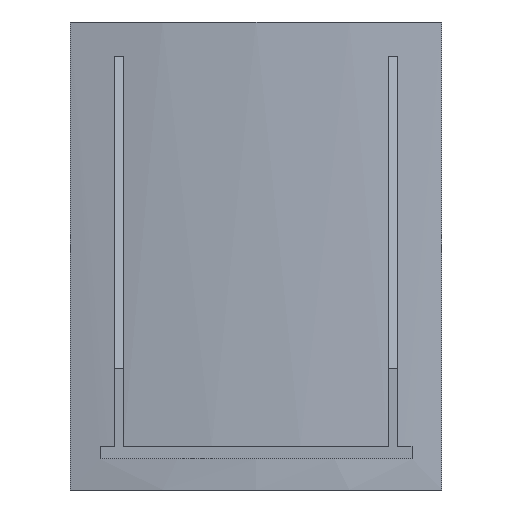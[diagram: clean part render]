
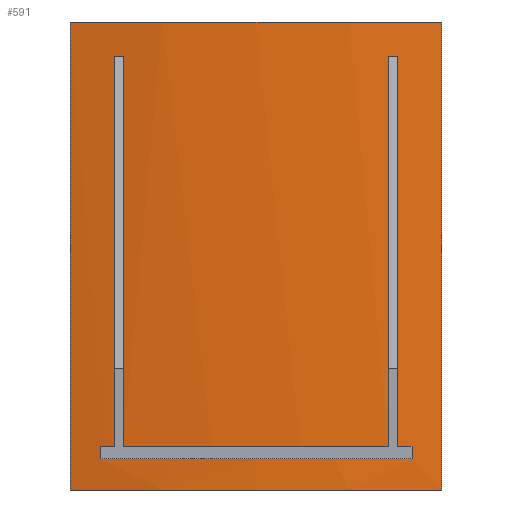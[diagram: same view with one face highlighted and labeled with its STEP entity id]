
A CAD part, left-side view. The second image highlights one B-rep face of the part: STEP entity #591.
In plain terms, the highlighted cylindrical face has radius 1218 mm (diameter 2436 mm), a partial arc.
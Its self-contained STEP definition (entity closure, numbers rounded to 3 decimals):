
#19=FACE_BOUND('',#105,.T.);
#28=CIRCLE('',#642,1218.);
#29=CIRCLE('',#644,1218.);
#30=CIRCLE('',#649,1218.);
#31=CIRCLE('',#651,1218.);
#34=CIRCLE('',#657,1218.);
#35=CIRCLE('',#658,1218.);
#41=CYLINDRICAL_SURFACE('',#656,1218.);
#69=FACE_OUTER_BOUND('',#104,.T.);
#104=EDGE_LOOP('',(#513,#514,#515,#516));
#105=EDGE_LOOP('',(#517,#518,#519,#520,#521,#522,#523,#524,#525,#526));
#158=LINE('',#945,#224);
#160=LINE('',#951,#226);
#169=LINE('',#976,#235);
#170=LINE('',#982,#236);
#171=LINE('',#983,#237);
#172=LINE('',#984,#238);
#224=VECTOR('',#775,10.);
#226=VECTOR('',#779,10.);
#235=VECTOR('',#806,10.);
#236=VECTOR('',#813,10.);
#237=VECTOR('',#814,10.);
#238=VECTOR('',#815,10.);
#265=VERTEX_POINT('',#892);
#266=VERTEX_POINT('',#894);
#272=VERTEX_POINT('',#912);
#275=VERTEX_POINT('',#924);
#277=VERTEX_POINT('',#935);
#280=VERTEX_POINT('',#942);
#281=VERTEX_POINT('',#947);
#283=VERTEX_POINT('',#950);
#289=VERTEX_POINT('',#972);
#290=VERTEX_POINT('',#974);
#291=VERTEX_POINT('',#978);
#292=VERTEX_POINT('',#980);
#345=EDGE_CURVE('',#275,#266,#28,.T.);
#347=EDGE_CURVE('',#277,#275,#29,.T.);
#352=EDGE_CURVE('',#280,#277,#158,.T.);
#354=EDGE_CURVE('',#283,#281,#160,.T.);
#359=EDGE_CURVE('',#281,#280,#30,.T.);
#360=EDGE_CURVE('',#266,#283,#31,.T.);
#367=EDGE_CURVE('',#289,#290,#169,.T.);
#368=EDGE_CURVE('',#291,#289,#34,.T.);
#369=EDGE_CURVE('',#292,#290,#35,.T.);
#370=EDGE_CURVE('',#291,#292,#170,.T.);
#371=EDGE_CURVE('',#275,#272,#171,.T.);
#372=EDGE_CURVE('',#266,#265,#172,.T.);
#513=ORIENTED_EDGE('',*,*,#368,.T.);
#514=ORIENTED_EDGE('',*,*,#367,.T.);
#515=ORIENTED_EDGE('',*,*,#369,.F.);
#516=ORIENTED_EDGE('',*,*,#370,.F.);
#517=ORIENTED_EDGE('',*,*,#354,.T.);
#518=ORIENTED_EDGE('',*,*,#359,.T.);
#519=ORIENTED_EDGE('',*,*,#352,.T.);
#520=ORIENTED_EDGE('',*,*,#347,.T.);
#521=ORIENTED_EDGE('',*,*,#371,.T.);
#522=ORIENTED_EDGE('',*,*,#371,.F.);
#523=ORIENTED_EDGE('',*,*,#345,.T.);
#524=ORIENTED_EDGE('',*,*,#372,.T.);
#525=ORIENTED_EDGE('',*,*,#372,.F.);
#526=ORIENTED_EDGE('',*,*,#360,.T.);
#591=ADVANCED_FACE('',(#69,#19),#41,.T.);
#642=AXIS2_PLACEMENT_3D('',#932,#762,#763);
#644=AXIS2_PLACEMENT_3D('',#936,#767,#768);
#649=AXIS2_PLACEMENT_3D('',#959,#788,#789);
#651=AXIS2_PLACEMENT_3D('',#961,#792,#793);
#656=AXIS2_PLACEMENT_3D('',#977,#807,#808);
#657=AXIS2_PLACEMENT_3D('',#979,#809,#810);
#658=AXIS2_PLACEMENT_3D('',#981,#811,#812);
#762=DIRECTION('center_axis',(0.,0.,1.));
#763=DIRECTION('ref_axis',(-0.981,0.196,0.));
#767=DIRECTION('center_axis',(0.,0.,1.));
#768=DIRECTION('ref_axis',(-0.981,0.196,0.));
#775=DIRECTION('',(0.,0.,1.));
#779=DIRECTION('',(0.,0.,-1.));
#788=DIRECTION('center_axis',(0.,0.,-1.));
#789=DIRECTION('ref_axis',(-0.981,0.196,0.));
#792=DIRECTION('center_axis',(0.,0.,1.));
#793=DIRECTION('ref_axis',(-0.981,0.196,0.));
#806=DIRECTION('',(0.,0.,1.));
#807=DIRECTION('center_axis',(0.,0.,1.));
#808=DIRECTION('ref_axis',(-0.981,0.196,0.));
#809=DIRECTION('center_axis',(0.,0.,1.));
#810=DIRECTION('ref_axis',(-0.981,0.196,0.));
#811=DIRECTION('center_axis',(0.,0.,1.));
#812=DIRECTION('ref_axis',(-0.981,0.196,0.));
#813=DIRECTION('',(0.,0.,1.));
#814=DIRECTION('',(0.,0.,1.));
#815=DIRECTION('',(0.,0.,1.));
#892=CARTESIAN_POINT('',(-1206.078,-170.,556.));
#894=CARTESIAN_POINT('',(-1206.078,-170.,56.));
#912=CARTESIAN_POINT('',(-1206.078,170.,556.));
#924=CARTESIAN_POINT('',(-1206.078,170.,56.));
#932=CARTESIAN_POINT('Origin',(0.,0.,56.));
#935=CARTESIAN_POINT('',(-1201.467,200.,56.));
#936=CARTESIAN_POINT('Origin',(0.,0.,56.));
#942=CARTESIAN_POINT('',(-1201.467,200.,40.));
#945=CARTESIAN_POINT('',(-1201.467,200.,0.));
#947=CARTESIAN_POINT('',(-1201.467,-200.,40.));
#950=CARTESIAN_POINT('',(-1201.467,-200.,56.));
#951=CARTESIAN_POINT('',(-1201.467,-200.,0.));
#959=CARTESIAN_POINT('Origin',(0.,0.,40.));
#961=CARTESIAN_POINT('Origin',(0.,0.,56.));
#972=CARTESIAN_POINT('',(-1194.431,-238.45,0.));
#974=CARTESIAN_POINT('',(-1194.431,-238.45,600.));
#976=CARTESIAN_POINT('',(-1194.431,-238.45,0.));
#977=CARTESIAN_POINT('Origin',(0.,0.,0.));
#978=CARTESIAN_POINT('',(-1194.431,238.45,0.));
#979=CARTESIAN_POINT('Origin',(0.,0.,0.));
#980=CARTESIAN_POINT('',(-1194.431,238.45,600.));
#981=CARTESIAN_POINT('Origin',(0.,0.,600.));
#982=CARTESIAN_POINT('',(-1194.431,238.45,0.));
#983=CARTESIAN_POINT('',(-1206.078,170.,0.));
#984=CARTESIAN_POINT('',(-1206.078,-170.,0.));
